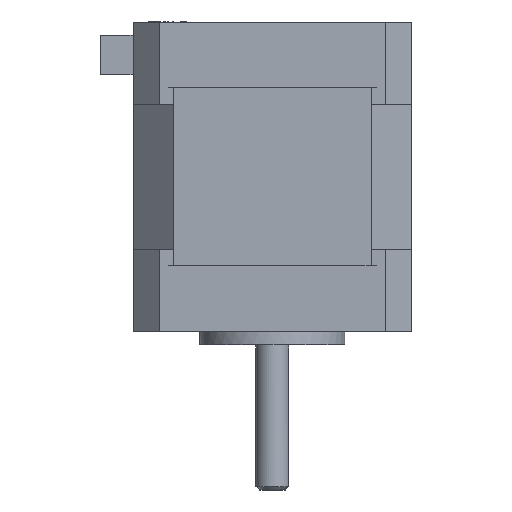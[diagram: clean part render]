
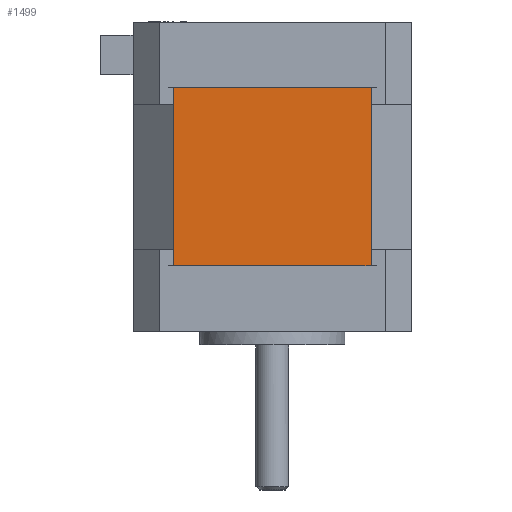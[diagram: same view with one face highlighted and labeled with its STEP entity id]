
A CAD part, left-side view. The second image highlights one B-rep face of the part: STEP entity #1499.
In plain terms, the highlighted planar face has unit normal (-1, 0, 0).
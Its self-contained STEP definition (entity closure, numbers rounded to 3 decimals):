
#1499=ADVANCED_FACE('',(#1709),#4315,.T.);
#1709=FACE_OUTER_BOUND('',#1949,.T.);
#1949=EDGE_LOOP('',(#2883,#2884,#2885,#2886));
#2883=ORIENTED_EDGE('',*,*,#3360,.T.);
#2884=ORIENTED_EDGE('',*,*,#3364,.T.);
#2885=ORIENTED_EDGE('',*,*,#3369,.T.);
#2886=ORIENTED_EDGE('',*,*,#3372,.F.);
#3360=EDGE_CURVE('',#4162,#4161,#3712,.T.);
#3364=EDGE_CURVE('',#4161,#4167,#3716,.T.);
#3369=EDGE_CURVE('',#4167,#4170,#3721,.T.);
#3372=EDGE_CURVE('',#4162,#4170,#3724,.T.);
#3712=B_SPLINE_CURVE_WITH_KNOTS('',1,(#6823,#6824),.UNSPECIFIED.,.F.,.F.,
(2,2),(-29.894,0.),.UNSPECIFIED.);
#3716=B_SPLINE_CURVE_WITH_KNOTS('',1,(#6831,#6832),.UNSPECIFIED.,.F.,.F.,
(2,2),(-27.,0.),.UNSPECIFIED.);
#3721=B_SPLINE_CURVE_WITH_KNOTS('',1,(#6841,#6842),.UNSPECIFIED.,.F.,.F.,
(2,2),(-29.894,0.),.UNSPECIFIED.);
#3724=B_SPLINE_CURVE_WITH_KNOTS('',1,(#6847,#6848),.UNSPECIFIED.,.F.,.F.,
(2,2),(-27.,0.),.UNSPECIFIED.);
#4161=VERTEX_POINT('',#6807);
#4162=VERTEX_POINT('',#6808);
#4167=VERTEX_POINT('',#6813);
#4170=VERTEX_POINT('',#6816);
#4315=PLANE('',#4669);
#4669=AXIS2_PLACEMENT_3D('',#6799,#4874,$);
#4874=DIRECTION('',(-1.,0.,0.));
#6799=CARTESIAN_POINT('',(-109.664,69.686,35.578));
#6807=CARTESIAN_POINT('',(-109.664,36.803,5.878));
#6808=CARTESIAN_POINT('',(-109.664,66.697,5.878));
#6813=CARTESIAN_POINT('',(-109.664,36.803,32.878));
#6816=CARTESIAN_POINT('',(-109.664,66.697,32.878));
#6823=CARTESIAN_POINT('',(-109.664,66.697,5.878));
#6824=CARTESIAN_POINT('',(-109.664,36.803,5.878));
#6831=CARTESIAN_POINT('',(-109.664,36.803,5.878));
#6832=CARTESIAN_POINT('',(-109.664,36.803,32.878));
#6841=CARTESIAN_POINT('',(-109.664,36.803,32.878));
#6842=CARTESIAN_POINT('',(-109.664,66.697,32.878));
#6847=CARTESIAN_POINT('',(-109.664,66.697,5.878));
#6848=CARTESIAN_POINT('',(-109.664,66.697,32.878));
